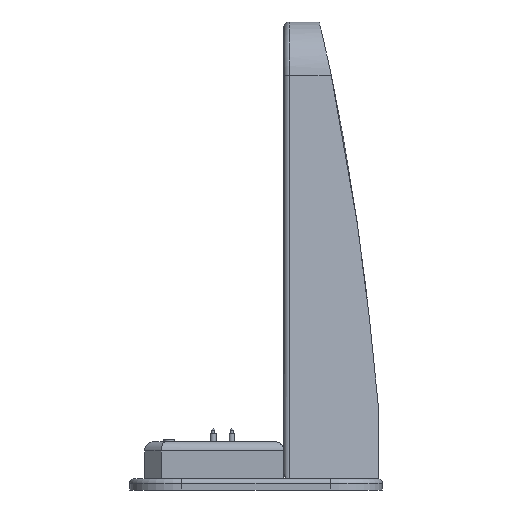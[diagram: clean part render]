
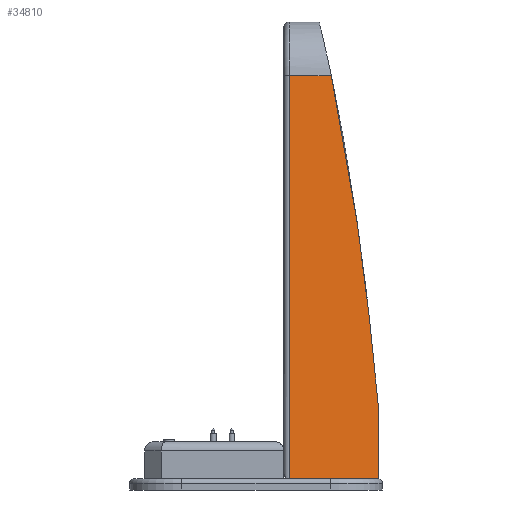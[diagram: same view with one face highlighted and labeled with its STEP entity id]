
A CAD part, left-side view. The second image highlights one B-rep face of the part: STEP entity #34810.
In plain terms, the highlighted planar face has unit normal (-0.995, 0, 0.097).
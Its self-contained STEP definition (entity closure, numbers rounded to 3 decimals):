
#34526 = EDGE_CURVE('',#34527,#34529,#34531,.T.);
#34527 = VERTEX_POINT('',#34528);
#34528 = CARTESIAN_POINT('',(-44.,-97.,3.));
#34529 = VERTEX_POINT('',#34530);
#34530 = CARTESIAN_POINT('',(-44.,-73.,3.));
#34531 = SURFACE_CURVE('',#34532,(#34536,#34548),.PCURVE_S1.);
#34532 = LINE('',#34533,#34534);
#34533 = CARTESIAN_POINT('',(-44.,-111.5,3.));
#34534 = VECTOR('',#34535,1.);
#34535 = DIRECTION('',(-0.,1.,-0.));
#34536 = PCURVE('',#34537,#34542);
#34537 = PLANE('',#34538);
#34538 = AXIS2_PLACEMENT_3D('',#34539,#34540,#34541);
#34539 = CARTESIAN_POINT('',(-52.,-71.5,3.));
#34540 = DIRECTION('',(0.,0.,-1.));
#34541 = DIRECTION('',(0.,-1.,0.));
#34542 = DEFINITIONAL_REPRESENTATION('',(#34543),#34547);
#34543 = LINE('',#34544,#34545);
#34544 = CARTESIAN_POINT('',(40.,-8.));
#34545 = VECTOR('',#34546,1.);
#34546 = DIRECTION('',(-1.,0.));
#34547 = ( GEOMETRIC_REPRESENTATION_CONTEXT(2) 
PARAMETRIC_REPRESENTATION_CONTEXT() REPRESENTATION_CONTEXT('2D SPACE',''
  ) );
#34548 = PCURVE('',#34549,#34554);
#34549 = PLANE('',#34550);
#34550 = AXIS2_PLACEMENT_3D('',#34551,#34552,#34553);
#34551 = CARTESIAN_POINT('',(-33.409,-111.5,111.554));
#34552 = DIRECTION('',(-0.995,0.,0.097));
#34553 = DIRECTION('',(-0.097,0.,-0.995));
#34554 = DEFINITIONAL_REPRESENTATION('',(#34555),#34559);
#34555 = LINE('',#34556,#34557);
#34556 = CARTESIAN_POINT('',(109.069,0.));
#34557 = VECTOR('',#34558,1.);
#34558 = DIRECTION('',(0.,-1.));
#34559 = ( GEOMETRIC_REPRESENTATION_CONTEXT(2) 
PARAMETRIC_REPRESENTATION_CONTEXT() REPRESENTATION_CONTEXT('2D SPACE',''
  ) );
#34737 = PLANE('',#34738);
#34738 = AXIS2_PLACEMENT_3D('',#34739,#34740,#34741);
#34739 = CARTESIAN_POINT('',(-52.,-97.,3.));
#34740 = DIRECTION('',(0.,-1.,0.));
#34741 = DIRECTION('',(0.,0.,1.));
#34810 = ADVANCED_FACE('',(#34811),#34549,.T.);
#34811 = FACE_BOUND('',#34812,.T.);
#34812 = EDGE_LOOP('',(#34813,#34814,#34835,#34895,#34923));
#34813 = ORIENTED_EDGE('',*,*,#34526,.F.);
#34814 = ORIENTED_EDGE('',*,*,#34815,.F.);
#34815 = EDGE_CURVE('',#34816,#34527,#34818,.T.);
#34816 = VERTEX_POINT('',#34817);
#34817 = CARTESIAN_POINT('',(-42.146,-97.,22.));
#34818 = SURFACE_CURVE('',#34819,(#34823,#34829),.PCURVE_S1.);
#34819 = LINE('',#34820,#34821);
#34820 = CARTESIAN_POINT('',(-38.742,-97.,56.89));
#34821 = VECTOR('',#34822,1.);
#34822 = DIRECTION('',(-0.097,-0.,-0.995));
#34823 = PCURVE('',#34549,#34824);
#34824 = DEFINITIONAL_REPRESENTATION('',(#34825),#34828);
#34825 = B_SPLINE_CURVE_WITH_KNOTS('',1,(#34826,#34827),.UNSPECIFIED.,
  .F.,.F.,(2,2),(35.056,54.146),
  .PIECEWISE_BEZIER_KNOTS.);
#34826 = CARTESIAN_POINT('',(89.979,-14.5));
#34827 = CARTESIAN_POINT('',(109.069,-14.5));
#34828 = ( GEOMETRIC_REPRESENTATION_CONTEXT(2) 
PARAMETRIC_REPRESENTATION_CONTEXT() REPRESENTATION_CONTEXT('2D SPACE',''
  ) );
#34829 = PCURVE('',#34737,#34830);
#34830 = DEFINITIONAL_REPRESENTATION('',(#34831),#34834);
#34831 = B_SPLINE_CURVE_WITH_KNOTS('',1,(#34832,#34833),.UNSPECIFIED.,
  .F.,.F.,(2,2),(35.056,54.146),
  .PIECEWISE_BEZIER_KNOTS.);
#34832 = CARTESIAN_POINT('',(19.,-9.854));
#34833 = CARTESIAN_POINT('',(0.,-8.));
#34834 = ( GEOMETRIC_REPRESENTATION_CONTEXT(2) 
PARAMETRIC_REPRESENTATION_CONTEXT() REPRESENTATION_CONTEXT('2D SPACE',''
  ) );
#34835 = ORIENTED_EDGE('',*,*,#34836,.F.);
#34836 = EDGE_CURVE('',#34837,#34816,#34839,.T.);
#34837 = VERTEX_POINT('',#34838);
#34838 = CARTESIAN_POINT('',(-33.409,-84.263,
    111.554));
#34839 = SURFACE_CURVE('',#34840,(#34853,#34869),.PCURVE_S1.);
#34840 = B_SPLINE_CURVE_WITH_KNOTS('',6,(#34841,#34842,#34843,#34844,
    #34845,#34846,#34847,#34848,#34849,#34850,#34851,#34852),
  .UNSPECIFIED.,.F.,.F.,(7,5,7),(0.,0.5,1.),.UNSPECIFIED.);
#34841 = CARTESIAN_POINT('',(-33.409,-84.263,
    111.554));
#34842 = CARTESIAN_POINT('',(-34.129,-85.82,
    104.179));
#34843 = CARTESIAN_POINT('',(-34.851,-87.254,
    96.779));
#34844 = CARTESIAN_POINT('',(-35.575,-88.573,
    89.358));
#34845 = CARTESIAN_POINT('',(-36.301,-89.787,
    81.919));
#34846 = CARTESIAN_POINT('',(-37.028,-90.905,
    74.465));
#34847 = CARTESIAN_POINT('',(-38.486,-92.968,
    59.521));
#34848 = CARTESIAN_POINT('',(-39.216,-93.912,
    52.031));
#34849 = CARTESIAN_POINT('',(-39.948,-94.779,
    44.532));
#34850 = CARTESIAN_POINT('',(-40.68,-95.576,
    37.025));
#34851 = CARTESIAN_POINT('',(-41.413,-96.314,
    29.514));
#34852 = CARTESIAN_POINT('',(-42.146,-97.,22.));
#34853 = PCURVE('',#34549,#34854);
#34854 = DEFINITIONAL_REPRESENTATION('',(#34855),#34868);
#34855 = B_SPLINE_CURVE_WITH_KNOTS('',6,(#34856,#34857,#34858,#34859,
    #34860,#34861,#34862,#34863,#34864,#34865,#34866,#34867),
  .UNSPECIFIED.,.F.,.F.,(7,5,7),(0.,0.5,1.),.UNSPECIFIED.);
#34856 = CARTESIAN_POINT('',(0.,-27.237));
#34857 = CARTESIAN_POINT('',(7.41,-25.68));
#34858 = CARTESIAN_POINT('',(14.845,-24.246));
#34859 = CARTESIAN_POINT('',(22.301,-22.927));
#34860 = CARTESIAN_POINT('',(29.776,-21.713));
#34861 = CARTESIAN_POINT('',(37.265,-20.595));
#34862 = CARTESIAN_POINT('',(52.28,-18.532));
#34863 = CARTESIAN_POINT('',(59.805,-17.588));
#34864 = CARTESIAN_POINT('',(67.34,-16.721));
#34865 = CARTESIAN_POINT('',(74.882,-15.924));
#34866 = CARTESIAN_POINT('',(82.429,-15.186));
#34867 = CARTESIAN_POINT('',(89.979,-14.5));
#34868 = ( GEOMETRIC_REPRESENTATION_CONTEXT(2) 
PARAMETRIC_REPRESENTATION_CONTEXT() REPRESENTATION_CONTEXT('2D SPACE',''
  ) );
#34869 = PCURVE('',#34870,#34880);
#34870 = SURFACE_OF_LINEAR_EXTRUSION('',#34871,#34878);
#34871 = B_SPLINE_CURVE_WITH_KNOTS('',3,(#34872,#34873,#34874,#34875,
    #34876,#34877),.UNSPECIFIED.,.F.,.F.,(4,1,1,4),(0.,33.185,
    73.633,105.307),.UNSPECIFIED.);
#34872 = CARTESIAN_POINT('',(-52.,-97.,22.));
#34873 = CARTESIAN_POINT('',(-52.,-95.994,33.01));
#34874 = CARTESIAN_POINT('',(-52.,-93.458,57.435));
#34875 = CARTESIAN_POINT('',(-52.,-88.364,92.185));
#34876 = CARTESIAN_POINT('',(-52.,-83.478,115.729));
#34877 = CARTESIAN_POINT('',(-52.,-81.,126.));
#34878 = VECTOR('',#34879,1.);
#34879 = DIRECTION('',(-1.,-0.,-0.));
#34880 = DEFINITIONAL_REPRESENTATION('',(#34881),#34894);
#34881 = B_SPLINE_CURVE_WITH_KNOTS('',6,(#34882,#34883,#34884,#34885,
    #34886,#34887,#34888,#34889,#34890,#34891,#34892,#34893),
  .UNSPECIFIED.,.F.,.F.,(7,5,7),(0.,0.5,1.),.UNSPECIFIED.);
#34882 = CARTESIAN_POINT('',(90.501,-18.591));
#34883 = CARTESIAN_POINT('',(82.964,-17.871));
#34884 = CARTESIAN_POINT('',(75.427,-17.149));
#34885 = CARTESIAN_POINT('',(67.889,-16.425));
#34886 = CARTESIAN_POINT('',(60.353,-15.699));
#34887 = CARTESIAN_POINT('',(52.817,-14.972));
#34888 = CARTESIAN_POINT('',(37.735,-13.514));
#34889 = CARTESIAN_POINT('',(30.189,-12.784));
#34890 = CARTESIAN_POINT('',(22.643,-12.052));
#34891 = CARTESIAN_POINT('',(15.097,-11.32));
#34892 = CARTESIAN_POINT('',(7.549,-10.587));
#34893 = CARTESIAN_POINT('',(0.,-9.854));
#34894 = ( GEOMETRIC_REPRESENTATION_CONTEXT(2) 
PARAMETRIC_REPRESENTATION_CONTEXT() REPRESENTATION_CONTEXT('2D SPACE',''
  ) );
#34895 = ORIENTED_EDGE('',*,*,#34896,.T.);
#34896 = EDGE_CURVE('',#34837,#34897,#34899,.T.);
#34897 = VERTEX_POINT('',#34898);
#34898 = CARTESIAN_POINT('',(-33.409,-73.,111.554));
#34899 = SURFACE_CURVE('',#34900,(#34904,#34911),.PCURVE_S1.);
#34900 = LINE('',#34901,#34902);
#34901 = CARTESIAN_POINT('',(-33.409,-111.5,111.554));
#34902 = VECTOR('',#34903,1.);
#34903 = DIRECTION('',(-0.,1.,-0.));
#34904 = PCURVE('',#34549,#34905);
#34905 = DEFINITIONAL_REPRESENTATION('',(#34906),#34910);
#34906 = LINE('',#34907,#34908);
#34907 = CARTESIAN_POINT('',(0.,0.));
#34908 = VECTOR('',#34909,1.);
#34909 = DIRECTION('',(0.,-1.));
#34910 = ( GEOMETRIC_REPRESENTATION_CONTEXT(2) 
PARAMETRIC_REPRESENTATION_CONTEXT() REPRESENTATION_CONTEXT('2D SPACE',''
  ) );
#34911 = PCURVE('',#34912,#34917);
#34912 = CYLINDRICAL_SURFACE('',#34913,16.);
#34913 = AXIS2_PLACEMENT_3D('',#34914,#34915,#34916);
#34914 = CARTESIAN_POINT('',(-17.485,-111.5,110.));
#34915 = DIRECTION('',(0.,-1.,0.));
#34916 = DIRECTION('',(1.,0.,0.));
#34917 = DEFINITIONAL_REPRESENTATION('',(#34918),#34922);
#34918 = LINE('',#34919,#34920);
#34919 = CARTESIAN_POINT('',(3.044,0.));
#34920 = VECTOR('',#34921,1.);
#34921 = DIRECTION('',(0.,-1.));
#34922 = ( GEOMETRIC_REPRESENTATION_CONTEXT(2) 
PARAMETRIC_REPRESENTATION_CONTEXT() REPRESENTATION_CONTEXT('2D SPACE',''
  ) );
#34923 = ORIENTED_EDGE('',*,*,#34924,.T.);
#34924 = EDGE_CURVE('',#34897,#34529,#34925,.T.);
#34925 = SURFACE_CURVE('',#34926,(#34930,#34937),.PCURVE_S1.);
#34926 = LINE('',#34927,#34928);
#34927 = CARTESIAN_POINT('',(-33.409,-73.,111.554));
#34928 = VECTOR('',#34929,1.);
#34929 = DIRECTION('',(-0.097,-0.,-0.995));
#34930 = PCURVE('',#34549,#34931);
#34931 = DEFINITIONAL_REPRESENTATION('',(#34932),#34936);
#34932 = LINE('',#34933,#34934);
#34933 = CARTESIAN_POINT('',(0.,-38.5));
#34934 = VECTOR('',#34935,1.);
#34935 = DIRECTION('',(1.,0.));
#34936 = ( GEOMETRIC_REPRESENTATION_CONTEXT(2) 
PARAMETRIC_REPRESENTATION_CONTEXT() REPRESENTATION_CONTEXT('2D SPACE',''
  ) );
#34937 = PCURVE('',#34938,#34943);
#34938 = CYLINDRICAL_SURFACE('',#34939,1.5);
#34939 = AXIS2_PLACEMENT_3D('',#34940,#34941,#34942);
#34940 = CARTESIAN_POINT('',(-31.916,-73.,111.408));
#34941 = DIRECTION('',(-0.097,-0.,-0.995));
#34942 = DIRECTION('',(0.,1.,-0.));
#34943 = DEFINITIONAL_REPRESENTATION('',(#34944),#34948);
#34944 = LINE('',#34945,#34946);
#34945 = CARTESIAN_POINT('',(-1.571,0.));
#34946 = VECTOR('',#34947,1.);
#34947 = DIRECTION('',(-0.,1.));
#34948 = ( GEOMETRIC_REPRESENTATION_CONTEXT(2) 
PARAMETRIC_REPRESENTATION_CONTEXT() REPRESENTATION_CONTEXT('2D SPACE',''
  ) );
